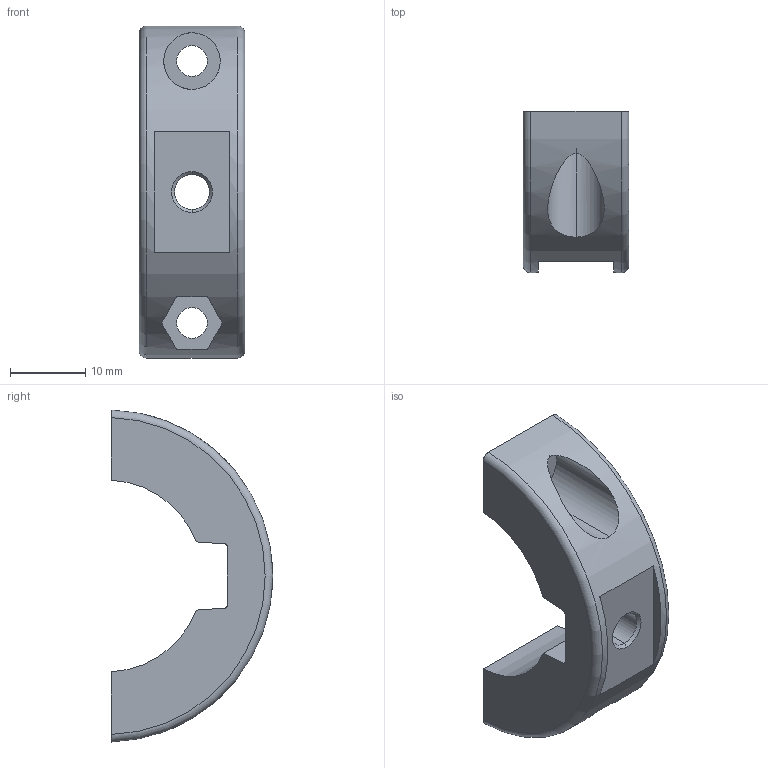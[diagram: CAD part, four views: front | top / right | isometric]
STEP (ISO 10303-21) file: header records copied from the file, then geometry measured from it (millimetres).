
FILE_DESCRIPTION((''),'2;1');
FILE_NAME('P597','2010-10-21T',('mth'),(''),'PRO/ENGINEER BY PARAMETRIC TECHNOLOGY CORPORATION, 2010280','PRO/ENGINEER BY PARAMETRIC TECHNOLOGY CORPORATION, 2010280','');
FILE_SCHEMA(('AUTOMOTIVE_DESIGN { 1 0 10303 214 1 1 1 1 }'));
Length unit declared in the file: millimetre
Products named in the file (1): P597
Bounding box: 14 x 21.38 x 43.98 mm (x, y, z)
Volume: 5330 mm3; surface area: 3173.3 mm2
Topology: 1 solids, 1 shells, 35 faces, 88 edges, 58 vertices
Faces by surface type: plane 18, cylinder 13, torus 2, cone 2
Entity records: 1477 total; most frequent: CARTESIAN_POINT 287, DIRECTION 178, ORIENTED_EDGE 176, EDGE_CURVE 88, AXIS2_PLACEMENT_3D 65, VERTEX_POINT 58, PROPERTY_DEFINITION 52, REPRESENTATION 51
